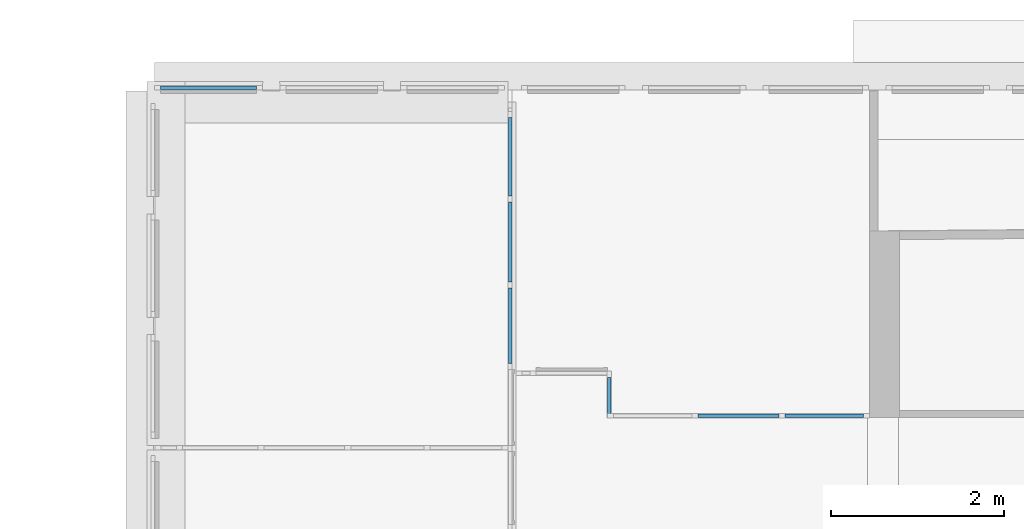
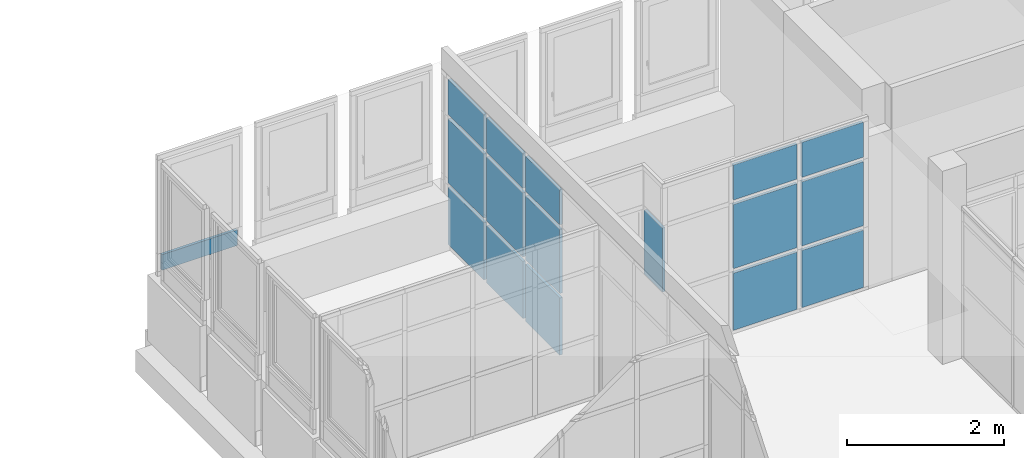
# One storey, part 32 of 97: 17 plates, 4 elements without a shape of their own.
"""IFC4 building model written with IfcOpenShell, lengths in metres."""

from ifc_helpers import new_model, entity, si_unit, converted_unit, derived_unit, direction, frame, origin, place, context, subcontext, project, spatial, indexed_curve, outline, extrude, shape, source, transform, mapped, material, layer, layer_set, type_object, type_shapes, element, aggregate, save


model = new_model("IFC4")

# Units and contexts
model_context = context("Model", 3, precision=1e-05, world=origin(), true_north=direction((6.12303176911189e-17, 1.0)))
body_context = subcontext(model_context, "Body", "Model", "MODEL_VIEW")
footprint_context = subcontext(model_context, "FootPrint", "Model", "MODEL_VIEW")
ifc_project = project(units=[si_unit("LENGTHUNIT", "METRE"), si_unit("AREAUNIT", "SQUARE_METRE"), si_unit("VOLUMEUNIT", "CUBIC_METRE"), converted_unit("PLANEANGLEUNIT", "DEGREE", entity("IfcRatioMeasure", 0.0174532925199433), si_unit("PLANEANGLEUNIT", "RADIAN"), dimensions=[0, 0, 0, 0, 0, 0, 0]), si_unit("MASSUNIT", "GRAM", prefix="KILO"), derived_unit("MASSDENSITYUNIT", [(si_unit("MASSUNIT", "GRAM", prefix="KILO"), 1), (si_unit("LENGTHUNIT", "METRE"), -3)]), derived_unit("MOMENTOFINERTIAUNIT", [(si_unit("LENGTHUNIT", "METRE"), 4)]), si_unit("TIMEUNIT", "SECOND"), si_unit("FREQUENCYUNIT", "HERTZ"), si_unit("THERMODYNAMICTEMPERATUREUNIT", "DEGREE_CELSIUS"), derived_unit("THERMALTRANSMITTANCEUNIT", [(si_unit("MASSUNIT", "GRAM", prefix="KILO"), 1), (si_unit("THERMODYNAMICTEMPERATUREUNIT", "KELVIN"), -1), (si_unit("TIMEUNIT", "SECOND"), -3)]), derived_unit("VOLUMETRICFLOWRATEUNIT", [(si_unit("LENGTHUNIT", "METRE"), 3), (si_unit("TIMEUNIT", "SECOND"), -1)]), si_unit("ELECTRICCURRENTUNIT", "AMPERE"), si_unit("ELECTRICVOLTAGEUNIT", "VOLT"), si_unit("POWERUNIT", "WATT"), si_unit("FORCEUNIT", "NEWTON", prefix="KILO"), si_unit("ILLUMINANCEUNIT", "LUX"), si_unit("LUMINOUSFLUXUNIT", "LUMEN"), si_unit("LUMINOUSINTENSITYUNIT", "CANDELA"), derived_unit("USERDEFINED", [(si_unit("MASSUNIT", "GRAM", prefix="KILO"), -1), (si_unit("LENGTHUNIT", "METRE"), -2), (si_unit("TIMEUNIT", "SECOND"), 3), (si_unit("LUMINOUSFLUXUNIT", "LUMEN"), 1)]), derived_unit("LINEARVELOCITYUNIT", [(si_unit("LENGTHUNIT", "METRE"), 1), (si_unit("TIMEUNIT", "SECOND"), -1)]), si_unit("PRESSUREUNIT", "PASCAL"), derived_unit("USERDEFINED", [(si_unit("LENGTHUNIT", "METRE"), -2), (si_unit("MASSUNIT", "GRAM", prefix="KILO"), 1), (si_unit("TIMEUNIT", "SECOND"), -2)]), derived_unit("LINEARFORCEUNIT", [(si_unit("MASSUNIT", "GRAM", prefix="KILO"), 1), (si_unit("LENGTHUNIT", "METRE"), 1), (si_unit("TIMEUNIT", "SECOND"), -2), (si_unit("LENGTHUNIT", "METRE"), -1)]), derived_unit("PLANARFORCEUNIT", [(si_unit("MASSUNIT", "GRAM", prefix="KILO"), 1), (si_unit("LENGTHUNIT", "METRE"), 1), (si_unit("TIMEUNIT", "SECOND"), -2), (si_unit("LENGTHUNIT", "METRE"), -2)])], contexts=[model_context])

# Site, building, storey
site_placement = place(None, origin())
site = spatial("IfcSite", under=ifc_project, at=site_placement, Name="Default", CompositionType="ELEMENT")
building_placement = place(site_placement, origin())
building = spatial("IfcBuilding", under=site, at=building_placement, Name="HOTEL CONSULAIRE BOULOGNE SUR MER", CompositionType="ELEMENT")
storey_placement = place(building_placement, frame((0.0, 0.0, 3.62152697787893)))
storey = spatial("IfcBuildingStorey", under=building, at=storey_placement, Name="Niveau 1", CompositionType="ELEMENT", Elevation=3.62152697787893)

# Curtain wall, plate
curtain_wall_type = type_object("IfcCurtainWallType", Name="Mur-rideau:Simple panneau", PredefinedType="NOTDEFINED")
curtain_wall_1_placement = place(storey_placement, frame((0.0, 0.0, -3.62152697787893)))
curtain_wall_1 = element("IfcCurtainWall", 1, at=curtain_wall_1_placement, inside=storey, type_object=curtain_wall_type, Name="Mur-rideau:Simple panneau", ObjectType="Mur-rideau:Simple panneau", PredefinedType="NOTDEFINED")
ifc_material = material(Name="Verre", Category="Verre")
ifc_layer_1 = layer(ifc_material, 0.04, Name="Verre", Category="Verre")
ifc_layer_set_1 = layer_set([ifc_layer_1], Name="Mur-rideau:Simple panneau")
plate_type_1 = type_object("IfcPlateType", Name="Panneau système:Vitré", PredefinedType="CURTAIN_PANEL", material=ifc_layer_set_1)
shared_shape_1 = source(origin(), body_context, "Body", "SweptSolid", [
    extrude(outline(indexed_curve([(-0.02, -0.556280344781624), (0.02, -0.556280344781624), (0.02, 0.556280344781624), (-0.02, 0.556280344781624), (-0.02, -0.556280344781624)], self_intersect=False)), frame((0.556280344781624, 0.02, 0.0), z_axis=(0.0, 0.0, 1.0), x_axis=(0.0, 1.0, 0.0)), (0.0, 0.0, 1.0), 0.243),
])
shared_shape_2 = source(frame((-0.556280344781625, 0.00500000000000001, 0.0)), footprint_context, "FootPrint", "Curve2D", [
    entity("IfcIndexedPolyCurve", entity("IfcCartesianPointList2D", [[0.725834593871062, 0.003476], [0.725834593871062, 0.043476], [-0.386726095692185, 0.043476], [-0.386726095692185, 0.003476], [0.725834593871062, 0.003476]]), None, False),
])
type_shapes(plate_type_1, [shared_shape_1, shared_shape_2])
plate_1_placement = place(curtain_wall_1_placement, frame((-13.7239806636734, -10.0696323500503, 4.48313951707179)))
plate_1 = element("IfcPlate", 2, at=plate_1_placement, type_object=plate_type_1, material=ifc_layer_set_1, Name="Panneau système:Vitré", ObjectType="Panneau système:Vitré", PredefinedType="CURTAIN_PANEL", shapes=[
    shape(body_context, "Body", "MappedRepresentation", [mapped(shared_shape_1, transform((0.0, 0.0, 0.0), scale=1.0))]),
    shape(body_context, "Body", "MappedRepresentation", [mapped(shared_shape_2, transform((0.0, 0.0, 0.0), scale=1.0))]),
])
aggregate(curtain_wall_1, [plate_1])

# Curtain wall, plates
curtain_wall_2_placement = place(storey_placement, frame((0.0, 0.0, -3.62152697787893)))
curtain_wall_2 = element("IfcCurtainWall", 3, at=curtain_wall_2_placement, inside=storey, type_object=curtain_wall_type, Name="Mur-rideau:Simple panneau", ObjectType="Mur-rideau:Simple panneau", PredefinedType="NOTDEFINED")
ifc_layer_2 = layer(ifc_material, 0.04, Name="Verre", Category="Verre")
ifc_layer_set_2 = layer_set([ifc_layer_2], Name="Mur-rideau:Simple panneau")
plate_type_2 = type_object("IfcPlateType", Name="Panneau système:Plein", PredefinedType="CURTAIN_PANEL", material=ifc_layer_set_2)
shared_shape_3 = source(origin(), body_context, "Body", "SweptSolid", [
    extrude(outline(indexed_curve([(-0.02, -0.435322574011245), (0.02, -0.435322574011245), (0.02, 0.435322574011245), (-0.02, 0.435322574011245), (-0.02, -0.435322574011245)], self_intersect=False)), frame((0.435322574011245, 0.02, 0.0), z_axis=(0.0, 0.0, 1.0), x_axis=(0.0, 1.0, 0.0)), (0.0, 0.0, 1.0), 0.891960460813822),
])
shared_shape_4 = source(frame((-0.435322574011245, 0.00499999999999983, 0.0)), footprint_context, "FootPrint", "Curve2D", [
    entity("IfcIndexedPolyCurve", entity("IfcCartesianPointList2D", [[0.568008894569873, 0.00347599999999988], [0.568008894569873, 0.0434759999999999], [-0.302636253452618, 0.0434759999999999], [-0.302636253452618, 0.00347599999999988], [0.568008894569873, 0.00347599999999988]]), None, False),
])
type_shapes(plate_type_2, [shared_shape_3, shared_shape_4])
plate_2_placement = place(curtain_wall_2_placement, frame((-9.65462464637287, -13.2422596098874, 3.67152697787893), z_axis=(0.0, 0.0, 1.0), x_axis=(0.0, 1.0, 0.0)))
plate_2 = element("IfcPlate", 4, at=plate_2_placement, type_object=plate_type_2, material=ifc_layer_set_2, Name="Panneau système:Plein", ObjectType="Panneau système:Plein", PredefinedType="CURTAIN_PANEL", shapes=[
    shape(body_context, "Body", "MappedRepresentation", [mapped(shared_shape_3, transform((0.0, 0.0, 0.0), scale=1.0))]),
    shape(body_context, "Body", "MappedRepresentation", [mapped(shared_shape_4, transform((0.0, 0.0, 0.0), scale=1.0))]),
])
plate_type_3 = type_object("IfcPlateType", Name="Panneau système:Plein", PredefinedType="CURTAIN_PANEL", material=ifc_layer_set_2)
shared_shape_5 = source(origin(), body_context, "Body", "SweptSolid", [
    extrude(outline(indexed_curve([(-0.02, -0.463145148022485), (0.02, -0.463145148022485), (0.02, 0.463145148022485), (-0.02, 0.463145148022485), (-0.02, -0.463145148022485)], self_intersect=False)), frame((0.463145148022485, 0.02, 0.0), z_axis=(0.0, 0.0, 1.0), x_axis=(0.0, 1.0, 0.0)), (0.0, 0.0, 1.0), 0.891960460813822),
])
shared_shape_6 = source(frame((-0.463145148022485, 0.00500000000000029, 0.0)), footprint_context, "FootPrint", "Curve2D", [
    entity("IfcIndexedPolyCurve", entity("IfcCartesianPointList2D", [[0.604311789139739, 0.0034760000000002], [0.604311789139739, 0.0434760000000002], [-0.321978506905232, 0.0434760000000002], [-0.321978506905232, 0.0034760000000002], [0.604311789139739, 0.0034760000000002]]), None, False),
])
type_shapes(plate_type_3, [shared_shape_5, shared_shape_6])
plate_3_placement = place(curtain_wall_2_placement, frame((-9.65462464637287, -12.3016144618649, 3.67152697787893), z_axis=(0.0, 0.0, 1.0), x_axis=(0.0, 1.0, 0.0)))
plate_3 = element("IfcPlate", 5, at=plate_3_placement, type_object=plate_type_3, material=ifc_layer_set_2, Name="Panneau système:Plein", ObjectType="Panneau système:Plein", PredefinedType="CURTAIN_PANEL", shapes=[
    shape(body_context, "Body", "MappedRepresentation", [mapped(shared_shape_5, transform((0.0, 0.0, 0.0), scale=1.0))]),
    shape(body_context, "Body", "MappedRepresentation", [mapped(shared_shape_6, transform((0.0, 0.0, 0.0), scale=1.0))]),
])
plate_type_4 = type_object("IfcPlateType", Name="Panneau système:Plein", PredefinedType="CURTAIN_PANEL", material=ifc_layer_set_2)
shared_shape_7 = source(origin(), body_context, "Body", "SweptSolid", [
    extrude(outline(indexed_curve([(-0.02, -0.456345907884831), (0.02, -0.456345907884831), (0.02, 0.456345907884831), (-0.02, 0.456345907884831), (-0.02, -0.456345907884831)], self_intersect=False)), frame((0.456345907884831, 0.02, 0.0), z_axis=(0.0, 0.0, 1.0), x_axis=(0.0, 1.0, 0.0)), (0.0, 0.0, 1.0), 0.891960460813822),
])
shared_shape_8 = source(frame((-0.456345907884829, 0.00499999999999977, 0.0)), footprint_context, "FootPrint", "Curve2D", [
    entity("IfcIndexedPolyCurve", entity("IfcCartesianPointList2D", [[0.595440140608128, 0.00347599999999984], [0.595440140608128, 0.0434759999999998], [-0.317251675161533, 0.0434759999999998], [-0.317251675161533, 0.00347599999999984], [0.595440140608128, 0.00347599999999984]]), None, False),
])
type_shapes(plate_type_4, [shared_shape_7, shared_shape_8])
plate_4_placement = place(curtain_wall_2_placement, frame((-9.65462464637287, -11.3053241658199, 3.67152697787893), z_axis=(0.0, 0.0, 1.0), x_axis=(0.0, 1.0, 0.0)))
plate_4 = element("IfcPlate", 6, at=plate_4_placement, type_object=plate_type_4, material=ifc_layer_set_2, Name="Panneau système:Plein", ObjectType="Panneau système:Plein", PredefinedType="CURTAIN_PANEL", shapes=[
    shape(body_context, "Body", "MappedRepresentation", [mapped(shared_shape_7, transform((0.0, 0.0, 0.0), scale=1.0))]),
    shape(body_context, "Body", "MappedRepresentation", [mapped(shared_shape_8, transform((0.0, 0.0, 0.0), scale=1.0))]),
])
plate_type_5 = type_object("IfcPlateType", Name="Panneau système:Vitré", PredefinedType="CURTAIN_PANEL", material=ifc_layer_set_1)
shared_shape_9 = source(origin(), body_context, "Body", "SweptSolid", [
    extrude(outline(indexed_curve([(-0.356333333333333, -0.435322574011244), (-0.286333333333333, -0.435322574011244), (0.642666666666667, -0.435322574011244), (0.642666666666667, 0.435322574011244), (-0.286333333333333, 0.435322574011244), (-0.356333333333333, 0.435322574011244), (-0.356333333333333, -0.435322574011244)], self_intersect=False)), frame((0.435322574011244, 0.0, 0.356333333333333), z_axis=(0.0, 1.0, 0.0), x_axis=(0.0, 0.0, 1.0)), (0.0, 0.0, 1.0), 0.04),
])
shared_shape_10 = source(frame((-0.435322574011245, 0.00499999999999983, 0.0)), footprint_context, "FootPrint", "Curve2D", [
    entity("IfcIndexedPolyCurve", entity("IfcCartesianPointList2D", [[-0.302636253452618, 0.00347599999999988], [-0.302636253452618, 0.00347599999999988], [-0.302636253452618, 0.00347599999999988], [0.56800889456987, 0.00347599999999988], [0.56800889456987, 0.00347599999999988], [0.56800889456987, 0.00347599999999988], [-0.302636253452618, 0.00347599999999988]]), None, False),
])
type_shapes(plate_type_5, [shared_shape_9, shared_shape_10])
plate_5_placement = place(curtain_wall_2_placement, frame((-9.65462464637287, -13.2422596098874, 4.63348743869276), z_axis=(0.0, 0.0, 1.0), x_axis=(0.0, 1.0, 0.0)))
plate_5 = element("IfcPlate", 7, at=plate_5_placement, type_object=plate_type_5, material=ifc_layer_set_1, Name="Panneau système:Vitré", ObjectType="Panneau système:Vitré", PredefinedType="CURTAIN_PANEL", shapes=[
    shape(body_context, "Body", "MappedRepresentation", [mapped(shared_shape_9, transform((0.0, 0.0, 0.0), scale=1.0))]),
    shape(body_context, "Body", "MappedRepresentation", [mapped(shared_shape_10, transform((0.0, 0.0, 0.0), scale=1.0))]),
])
plate_type_6 = type_object("IfcPlateType", Name="Panneau système:Vitré", PredefinedType="CURTAIN_PANEL", material=ifc_layer_set_1)
shared_shape_11 = source(origin(), body_context, "Body", "SweptSolid", [
    extrude(outline(indexed_curve([(-0.356333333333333, -0.463145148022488), (-0.286333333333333, -0.463145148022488), (0.642666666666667, -0.463145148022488), (0.642666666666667, 0.463145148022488), (-0.286333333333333, 0.463145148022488), (-0.356333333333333, 0.463145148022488), (-0.356333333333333, -0.463145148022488)], self_intersect=False)), frame((0.463145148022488, 0.0, 0.356333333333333), z_axis=(0.0, 1.0, 0.0), x_axis=(0.0, 0.0, 1.0)), (0.0, 0.0, 1.0), 0.04),
])
shared_shape_12 = source(frame((-0.463145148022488, 0.00500000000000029, 0.0)), footprint_context, "FootPrint", "Curve2D", [
    entity("IfcIndexedPolyCurve", entity("IfcCartesianPointList2D", [[-0.321978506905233, 0.0034760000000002], [-0.321978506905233, 0.0034760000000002], [-0.321978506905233, 0.0034760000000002], [0.604311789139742, 0.0034760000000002], [0.604311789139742, 0.0034760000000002], [0.604311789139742, 0.0034760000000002], [-0.321978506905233, 0.0034760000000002]]), None, False),
])
type_shapes(plate_type_6, [shared_shape_11, shared_shape_12])
plate_6_placement = place(curtain_wall_2_placement, frame((-9.65462464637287, -12.3016144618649, 4.63348743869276), z_axis=(0.0, 0.0, 1.0), x_axis=(0.0, 1.0, 0.0)))
plate_6 = element("IfcPlate", 8, at=plate_6_placement, type_object=plate_type_6, material=ifc_layer_set_1, Name="Panneau système:Vitré", ObjectType="Panneau système:Vitré", PredefinedType="CURTAIN_PANEL", shapes=[
    shape(body_context, "Body", "MappedRepresentation", [mapped(shared_shape_11, transform((0.0, 0.0, 0.0), scale=1.0))]),
    shape(body_context, "Body", "MappedRepresentation", [mapped(shared_shape_12, transform((0.0, 0.0, 0.0), scale=1.0))]),
])
plate_type_7 = type_object("IfcPlateType", Name="Panneau système:Vitré", PredefinedType="CURTAIN_PANEL", material=ifc_layer_set_1)
shared_shape_13 = source(origin(), body_context, "Body", "SweptSolid", [
    extrude(outline(indexed_curve([(-0.356333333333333, -0.456345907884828), (-0.286333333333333, -0.456345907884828), (0.642666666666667, -0.456345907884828), (0.642666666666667, 0.456345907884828), (-0.286333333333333, 0.456345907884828), (-0.356333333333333, 0.456345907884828), (-0.356333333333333, -0.456345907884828)], self_intersect=False)), frame((0.456345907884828, 0.0, 0.356333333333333), z_axis=(0.0, 1.0, 0.0), x_axis=(0.0, 0.0, 1.0)), (0.0, 0.0, 1.0), 0.04),
])
shared_shape_14 = source(frame((-0.456345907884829, 0.00499999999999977, 0.0)), footprint_context, "FootPrint", "Curve2D", [
    entity("IfcIndexedPolyCurve", entity("IfcCartesianPointList2D", [[-0.317251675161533, 0.00347599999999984], [-0.317251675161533, 0.00347599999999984], [-0.317251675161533, 0.00347599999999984], [0.595440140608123, 0.00347599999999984], [0.595440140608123, 0.00347599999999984], [0.595440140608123, 0.00347599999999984], [-0.317251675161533, 0.00347599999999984]]), None, False),
])
type_shapes(plate_type_7, [shared_shape_13, shared_shape_14])
plate_7_placement = place(curtain_wall_2_placement, frame((-9.65462464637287, -11.3053241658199, 4.63348743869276), z_axis=(0.0, 0.0, 1.0), x_axis=(0.0, 1.0, 0.0)))
plate_7 = element("IfcPlate", 9, at=plate_7_placement, type_object=plate_type_7, material=ifc_layer_set_1, Name="Panneau système:Vitré", ObjectType="Panneau système:Vitré", PredefinedType="CURTAIN_PANEL", shapes=[
    shape(body_context, "Body", "MappedRepresentation", [mapped(shared_shape_13, transform((0.0, 0.0, 0.0), scale=1.0))]),
    shape(body_context, "Body", "MappedRepresentation", [mapped(shared_shape_14, transform((0.0, 0.0, 0.0), scale=1.0))]),
])
plate_type_8 = type_object("IfcPlateType", Name="Panneau système:Vitré", PredefinedType="CURTAIN_PANEL", material=ifc_layer_set_1)
shared_shape_15 = source(origin(), body_context, "Body", "SweptSolid", [
    extrude(outline(indexed_curve([(-0.02, -0.435322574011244), (0.02, -0.435322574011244), (0.02, 0.435322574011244), (-0.02, 0.435322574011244), (-0.02, -0.435322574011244)], self_intersect=False)), frame((0.435322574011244, 0.02, 0.0), z_axis=(0.0, 0.0, 1.0), x_axis=(0.0, 1.0, 0.0)), (0.0, 0.0, 1.0), 0.546),
])
shared_shape_16 = source(frame((-0.435322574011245, 0.00499999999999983, 0.0)), footprint_context, "FootPrint", "Curve2D", [
    entity("IfcIndexedPolyCurve", entity("IfcCartesianPointList2D", [[0.56800889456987, 0.00347599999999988], [0.56800889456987, 0.0434759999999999], [-0.302636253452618, 0.0434759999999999], [-0.302636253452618, 0.00347599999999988], [0.56800889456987, 0.00347599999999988]]), None, False),
])
type_shapes(plate_type_8, [shared_shape_15, shared_shape_16])
plate_8_placement = place(curtain_wall_2_placement, frame((-9.65462464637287, -13.2422596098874, 5.70248743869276), z_axis=(0.0, 0.0, 1.0), x_axis=(0.0, 1.0, 0.0)))
plate_8 = element("IfcPlate", 10, at=plate_8_placement, type_object=plate_type_8, material=ifc_layer_set_1, Name="Panneau système:Vitré", ObjectType="Panneau système:Vitré", PredefinedType="CURTAIN_PANEL", shapes=[
    shape(body_context, "Body", "MappedRepresentation", [mapped(shared_shape_15, transform((0.0, 0.0, 0.0), scale=1.0))]),
    shape(body_context, "Body", "MappedRepresentation", [mapped(shared_shape_16, transform((0.0, 0.0, 0.0), scale=1.0))]),
])
plate_type_9 = type_object("IfcPlateType", Name="Panneau système:Vitré", PredefinedType="CURTAIN_PANEL", material=ifc_layer_set_1)
shared_shape_17 = source(origin(), body_context, "Body", "SweptSolid", [
    extrude(outline(indexed_curve([(-0.02, -0.463145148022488), (0.02, -0.463145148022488), (0.02, 0.463145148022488), (-0.02, 0.463145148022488), (-0.02, -0.463145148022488)], self_intersect=False)), frame((0.463145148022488, 0.02, 0.0), z_axis=(0.0, 0.0, 1.0), x_axis=(0.0, 1.0, 0.0)), (0.0, 0.0, 1.0), 0.546),
])
shared_shape_18 = source(frame((-0.463145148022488, 0.00500000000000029, 0.0)), footprint_context, "FootPrint", "Curve2D", [
    entity("IfcIndexedPolyCurve", entity("IfcCartesianPointList2D", [[0.604311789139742, 0.0034760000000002], [0.604311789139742, 0.0434760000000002], [-0.321978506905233, 0.0434760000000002], [-0.321978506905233, 0.0034760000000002], [0.604311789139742, 0.0034760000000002]]), None, False),
])
type_shapes(plate_type_9, [shared_shape_17, shared_shape_18])
plate_9_placement = place(curtain_wall_2_placement, frame((-9.65462464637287, -12.3016144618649, 5.70248743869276), z_axis=(0.0, 0.0, 1.0), x_axis=(0.0, 1.0, 0.0)))
plate_9 = element("IfcPlate", 11, at=plate_9_placement, type_object=plate_type_9, material=ifc_layer_set_1, Name="Panneau système:Vitré", ObjectType="Panneau système:Vitré", PredefinedType="CURTAIN_PANEL", shapes=[
    shape(body_context, "Body", "MappedRepresentation", [mapped(shared_shape_17, transform((0.0, 0.0, 0.0), scale=1.0))]),
    shape(body_context, "Body", "MappedRepresentation", [mapped(shared_shape_18, transform((0.0, 0.0, 0.0), scale=1.0))]),
])
plate_type_10 = type_object("IfcPlateType", Name="Panneau système:Vitré", PredefinedType="CURTAIN_PANEL", material=ifc_layer_set_1)
shared_shape_19 = source(origin(), body_context, "Body", "SweptSolid", [
    extrude(outline(indexed_curve([(-0.02, -0.456345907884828), (0.02, -0.456345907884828), (0.02, 0.456345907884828), (-0.02, 0.456345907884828), (-0.02, -0.456345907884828)], self_intersect=False)), frame((0.45634590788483, 0.02, 0.0), z_axis=(0.0, 0.0, 1.0), x_axis=(0.0, 1.0, 0.0)), (0.0, 0.0, 1.0), 0.546),
])
shared_shape_20 = source(frame((-0.456345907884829, 0.00499999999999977, 0.0)), footprint_context, "FootPrint", "Curve2D", [
    entity("IfcIndexedPolyCurve", entity("IfcCartesianPointList2D", [[0.595440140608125, 0.00347599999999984], [0.595440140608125, 0.0434759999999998], [-0.317251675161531, 0.0434759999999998], [-0.317251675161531, 0.00347599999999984], [0.595440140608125, 0.00347599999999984]]), None, False),
])
type_shapes(plate_type_10, [shared_shape_19, shared_shape_20])
plate_10_placement = place(curtain_wall_2_placement, frame((-9.65462464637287, -11.3053241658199, 5.70248743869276), z_axis=(0.0, 0.0, 1.0), x_axis=(0.0, 1.0, 0.0)))
plate_10 = element("IfcPlate", 12, at=plate_10_placement, type_object=plate_type_10, material=ifc_layer_set_1, Name="Panneau système:Vitré", ObjectType="Panneau système:Vitré", PredefinedType="CURTAIN_PANEL", shapes=[
    shape(body_context, "Body", "MappedRepresentation", [mapped(shared_shape_19, transform((0.0, 0.0, 0.0), scale=1.0))]),
    shape(body_context, "Body", "MappedRepresentation", [mapped(shared_shape_20, transform((0.0, 0.0, 0.0), scale=1.0))]),
])
aggregate(curtain_wall_2, [plate_2, plate_3, plate_4, plate_5, plate_6, plate_7, plate_8, plate_9, plate_10])

curtain_wall_3_placement = place(storey_placement, frame((0.0, 0.0, -3.62152697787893)))
curtain_wall_3 = element("IfcCurtainWall", 13, at=curtain_wall_3_placement, inside=storey, type_object=curtain_wall_type, Name="Mur-rideau:Simple panneau", ObjectType="Mur-rideau:Simple panneau", PredefinedType="NOTDEFINED")
plate_type_11 = type_object("IfcPlateType", Name="Panneau système:Plein", PredefinedType="CURTAIN_PANEL", material=ifc_layer_set_2)
shared_shape_21 = source(origin(), body_context, "Body", "SweptSolid", [
    extrude(outline(indexed_curve([(-0.0199999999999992, -0.453199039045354), (0.0200000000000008, -0.453199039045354), (0.0199999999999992, 0.453199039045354), (-0.0200000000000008, 0.453199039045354), (-0.0199999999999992, -0.453199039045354)], self_intersect=False)), frame((0.453199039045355, 0.02, 0.0), z_axis=(0.0, 0.0, 1.0), x_axis=(0.0, 1.0, 0.0)), (0.0, 0.0, 1.0), 0.892),
])
shared_shape_22 = source(frame((-0.453199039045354, 0.00500000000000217, 0.0)), footprint_context, "FootPrint", "Curve2D", [
    entity("IfcIndexedPolyCurve", entity("IfcCartesianPointList2D", [[0.591334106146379, 0.00347600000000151], [0.591334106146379, 0.0434760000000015], [-0.315063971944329, 0.0434760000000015], [-0.315063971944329, 0.00347600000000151], [0.591334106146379, 0.00347600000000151]]), None, False),
])
type_shapes(plate_type_11, [shared_shape_21, shared_shape_22])
plate_11_placement = place(curtain_wall_3_placement, frame((-5.5797731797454, -13.8309141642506, 3.67152697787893), z_axis=(0.0, 0.0, 1.0), x_axis=(-1.0, 0.0, 0.0)))
plate_11 = element("IfcPlate", 14, at=plate_11_placement, type_object=plate_type_11, material=ifc_layer_set_2, Name="Panneau système:Plein", ObjectType="Panneau système:Plein", PredefinedType="CURTAIN_PANEL", shapes=[
    shape(body_context, "Body", "MappedRepresentation", [mapped(shared_shape_21, transform((0.0, 0.0, 0.0), scale=1.0))]),
    shape(body_context, "Body", "MappedRepresentation", [mapped(shared_shape_22, transform((0.0, 0.0, 0.0), scale=1.0))]),
])
plate_type_12 = type_object("IfcPlateType", Name="Panneau système:Plein", PredefinedType="CURTAIN_PANEL", material=ifc_layer_set_2)
shared_shape_23 = source(origin(), body_context, "Body", "SweptSolid", [
    extrude(outline(indexed_curve([(-0.02, -0.470699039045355), (0.02, -0.470699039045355), (0.02, 0.470699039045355), (-0.02, 0.470699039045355), (-0.02, -0.470699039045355)], self_intersect=False)), frame((0.470699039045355, 0.02, 0.0), z_axis=(0.0, 0.0, 1.0), x_axis=(0.0, 1.0, 0.0)), (0.0, 0.0, 1.0), 0.892),
])
shared_shape_24 = source(frame((-0.470699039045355, 0.00499999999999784, 0.0)), footprint_context, "FootPrint", "Curve2D", [
    entity("IfcIndexedPolyCurve", entity("IfcCartesianPointList2D", [[0.614168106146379, 0.0034759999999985], [0.614168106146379, 0.0434759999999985], [-0.327229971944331, 0.0434759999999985], [-0.327229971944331, 0.0034759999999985], [0.614168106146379, 0.0034759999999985]]), None, False),
])
type_shapes(plate_type_12, [shared_shape_23, shared_shape_24])
plate_12_placement = place(curtain_wall_3_placement, frame((-6.5561712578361, -13.8309141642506, 3.67152697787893), z_axis=(0.0, 0.0, 1.0), x_axis=(-1.0, 0.0, 0.0)))
plate_12 = element("IfcPlate", 15, at=plate_12_placement, type_object=plate_type_12, material=ifc_layer_set_2, Name="Panneau système:Plein", ObjectType="Panneau système:Plein", PredefinedType="CURTAIN_PANEL", shapes=[
    shape(body_context, "Body", "MappedRepresentation", [mapped(shared_shape_23, transform((0.0, 0.0, 0.0), scale=1.0))]),
    shape(body_context, "Body", "MappedRepresentation", [mapped(shared_shape_24, transform((0.0, 0.0, 0.0), scale=1.0))]),
])
plate_type_13 = type_object("IfcPlateType", Name="Panneau système:Vitré", PredefinedType="CURTAIN_PANEL", material=ifc_layer_set_1)
shared_shape_25 = source(origin(), body_context, "Body", "SweptSolid", [
    extrude(outline(indexed_curve([(-0.02, -0.453199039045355), (0.02, -0.453199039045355), (0.02, 0.453199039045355), (-0.02, 0.453199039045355), (-0.02, -0.453199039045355)], self_intersect=False)), frame((0.453199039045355, 0.02, 0.0), z_axis=(0.0, 0.0, 1.0), x_axis=(0.0, 1.0, 0.0)), (0.0, 0.0, 1.0), 0.998960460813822),
])
shared_shape_26 = source(frame((-0.453199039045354, 0.00500000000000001, 0.0)), footprint_context, "FootPrint", "Curve2D", [
    entity("IfcIndexedPolyCurve", entity("IfcCartesianPointList2D", [[0.591334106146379, 0.003476], [0.591334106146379, 0.043476], [-0.31506397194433, 0.043476], [-0.31506397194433, 0.003476], [0.591334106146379, 0.003476]]), None, False),
])
type_shapes(plate_type_13, [shared_shape_25, shared_shape_26])
plate_13_placement = place(curtain_wall_3_placement, frame((-5.5797731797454, -13.8309141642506, 4.63352697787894), z_axis=(0.0, 0.0, 1.0), x_axis=(-1.0, 0.0, 0.0)))
plate_13 = element("IfcPlate", 16, at=plate_13_placement, type_object=plate_type_13, material=ifc_layer_set_1, Name="Panneau système:Vitré", ObjectType="Panneau système:Vitré", PredefinedType="CURTAIN_PANEL", shapes=[
    shape(body_context, "Body", "MappedRepresentation", [mapped(shared_shape_25, transform((0.0, 0.0, 0.0), scale=1.0))]),
    shape(body_context, "Body", "MappedRepresentation", [mapped(shared_shape_26, transform((0.0, 0.0, 0.0), scale=1.0))]),
])
plate_type_14 = type_object("IfcPlateType", Name="Panneau système:Vitré", PredefinedType="CURTAIN_PANEL", material=ifc_layer_set_1)
shared_shape_27 = source(origin(), body_context, "Body", "SweptSolid", [
    extrude(outline(indexed_curve([(-0.02, -0.470699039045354), (0.02, -0.470699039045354), (0.02, 0.470699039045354), (-0.02, 0.470699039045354), (-0.02, -0.470699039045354)], self_intersect=False)), frame((0.470699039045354, 0.02, 0.0), z_axis=(0.0, 0.0, 1.0), x_axis=(0.0, 1.0, 0.0)), (0.0, 0.0, 1.0), 0.998960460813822),
])
shared_shape_28 = source(frame((-0.470699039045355, 0.00499999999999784, 0.0)), footprint_context, "FootPrint", "Curve2D", [
    entity("IfcIndexedPolyCurve", entity("IfcCartesianPointList2D", [[0.614168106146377, 0.0034759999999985], [0.614168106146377, 0.0434759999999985], [-0.327229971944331, 0.0434759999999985], [-0.327229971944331, 0.0034759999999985], [0.614168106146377, 0.0034759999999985]]), None, False),
])
type_shapes(plate_type_14, [shared_shape_27, shared_shape_28])
plate_14_placement = place(curtain_wall_3_placement, frame((-6.5561712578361, -13.8309141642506, 4.63352697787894), z_axis=(0.0, 0.0, 1.0), x_axis=(-1.0, 0.0, 0.0)))
plate_14 = element("IfcPlate", 17, at=plate_14_placement, type_object=plate_type_14, material=ifc_layer_set_1, Name="Panneau système:Vitré", ObjectType="Panneau système:Vitré", PredefinedType="CURTAIN_PANEL", shapes=[
    shape(body_context, "Body", "MappedRepresentation", [mapped(shared_shape_27, transform((0.0, 0.0, 0.0), scale=1.0))]),
    shape(body_context, "Body", "MappedRepresentation", [mapped(shared_shape_28, transform((0.0, 0.0, 0.0), scale=1.0))]),
])
plate_type_15 = type_object("IfcPlateType", Name="Panneau système:Vitré", PredefinedType="CURTAIN_PANEL", material=ifc_layer_set_1)
shared_shape_29 = source(origin(), body_context, "Body", "SweptSolid", [
    extrude(outline(indexed_curve([(-0.02, -0.453199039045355), (0.02, -0.453199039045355), (0.02, 0.453199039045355), (-0.02, 0.453199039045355), (-0.02, -0.453199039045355)], self_intersect=False)), frame((0.453199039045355, 0.02, 0.0), z_axis=(0.0, 0.0, 1.0), x_axis=(0.0, 1.0, 0.0)), (0.0, 0.0, 1.0), 0.546),
])
shared_shape_30 = source(frame((-0.453199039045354, 0.00500000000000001, 0.0)), footprint_context, "FootPrint", "Curve2D", [
    entity("IfcIndexedPolyCurve", entity("IfcCartesianPointList2D", [[0.591334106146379, 0.003476], [0.591334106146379, 0.043476], [-0.31506397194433, 0.043476], [-0.31506397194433, 0.003476], [0.591334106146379, 0.003476]]), None, False),
])
type_shapes(plate_type_15, [shared_shape_29, shared_shape_30])
plate_15_placement = place(curtain_wall_3_placement, frame((-5.5797731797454, -13.8309141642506, 5.70248743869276), z_axis=(0.0, 0.0, 1.0), x_axis=(-1.0, 0.0, 0.0)))
plate_15 = element("IfcPlate", 18, at=plate_15_placement, type_object=plate_type_15, material=ifc_layer_set_1, Name="Panneau système:Vitré", ObjectType="Panneau système:Vitré", PredefinedType="CURTAIN_PANEL", shapes=[
    shape(body_context, "Body", "MappedRepresentation", [mapped(shared_shape_29, transform((0.0, 0.0, 0.0), scale=1.0))]),
    shape(body_context, "Body", "MappedRepresentation", [mapped(shared_shape_30, transform((0.0, 0.0, 0.0), scale=1.0))]),
])
plate_type_16 = type_object("IfcPlateType", Name="Panneau système:Vitré", PredefinedType="CURTAIN_PANEL", material=ifc_layer_set_1)
shared_shape_31 = source(origin(), body_context, "Body", "SweptSolid", [
    extrude(outline(indexed_curve([(-0.02, -0.470699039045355), (0.02, -0.470699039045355), (0.02, 0.470699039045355), (-0.02, 0.470699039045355), (-0.02, -0.470699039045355)], self_intersect=False)), frame((0.470699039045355, 0.02, 0.0), z_axis=(0.0, 0.0, 1.0), x_axis=(0.0, 1.0, 0.0)), (0.0, 0.0, 1.0), 0.546),
])
shared_shape_32 = source(frame((-0.470699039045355, 0.00499999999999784, 0.0)), footprint_context, "FootPrint", "Curve2D", [
    entity("IfcIndexedPolyCurve", entity("IfcCartesianPointList2D", [[0.614168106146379, 0.0034759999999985], [0.614168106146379, 0.0434759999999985], [-0.327229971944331, 0.0434759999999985], [-0.327229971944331, 0.0034759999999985], [0.614168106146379, 0.0034759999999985]]), None, False),
])
type_shapes(plate_type_16, [shared_shape_31, shared_shape_32])
plate_16_placement = place(curtain_wall_3_placement, frame((-6.5561712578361, -13.8309141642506, 5.70248743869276), z_axis=(0.0, 0.0, 1.0), x_axis=(-1.0, 0.0, 0.0)))
plate_16 = element("IfcPlate", 19, at=plate_16_placement, type_object=plate_type_16, material=ifc_layer_set_1, Name="Panneau système:Vitré", ObjectType="Panneau système:Vitré", PredefinedType="CURTAIN_PANEL", shapes=[
    shape(body_context, "Body", "MappedRepresentation", [mapped(shared_shape_31, transform((0.0, 0.0, 0.0), scale=1.0))]),
    shape(body_context, "Body", "MappedRepresentation", [mapped(shared_shape_32, transform((0.0, 0.0, 0.0), scale=1.0))]),
])
aggregate(curtain_wall_3, [plate_11, plate_12, plate_13, plate_14, plate_15, plate_16])

# Curtain wall, plate
curtain_wall_4_placement = place(storey_placement, frame((0.0, 0.0, -3.62152697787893)))
curtain_wall_4 = element("IfcCurtainWall", 20, at=curtain_wall_4_placement, inside=storey, type_object=curtain_wall_type, Name="Mur-rideau:Simple panneau", ObjectType="Mur-rideau:Simple panneau", PredefinedType="NOTDEFINED")
plate_type_17 = type_object("IfcPlateType", Name="Panneau système:Vitré", PredefinedType="CURTAIN_PANEL", material=ifc_layer_set_1)
shared_shape_33 = source(origin(), body_context, "Body", "SweptSolid", [
    extrude(outline(indexed_curve([(-0.02, -0.233181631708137), (0.02, -0.233181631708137), (0.02, 0.233181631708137), (-0.02, 0.233181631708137), (-0.02, -0.233181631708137)], self_intersect=False)), frame((0.233181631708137, 0.02, 0.0), z_axis=(0.0, 0.0, 1.0), x_axis=(0.0, 1.0, 0.0)), (0.0, 0.0, 1.0), 0.998960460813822),
])
shared_shape_34 = source(frame((-0.233181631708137, 0.00499999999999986, 0.0)), footprint_context, "FootPrint", "Curve2D", [
    entity("IfcIndexedPolyCurve", entity("IfcCartesianPointList2D", [[0.304255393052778, 0.0034759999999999], [0.304255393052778, 0.0434759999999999], [-0.162107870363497, 0.0434759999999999], [-0.162107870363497, 0.0034759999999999], [0.304255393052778, 0.0034759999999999]]), None, False),
])
type_shapes(plate_type_17, [shared_shape_33, shared_shape_34])
plate_17_placement = place(curtain_wall_4_placement, frame((-8.50396741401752, -13.8709141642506, 4.63352697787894), z_axis=(0.0, 0.0, 1.0), x_axis=(0.0, 1.0, 0.0)))
plate_17 = element("IfcPlate", 21, at=plate_17_placement, type_object=plate_type_17, material=ifc_layer_set_1, Name="Panneau système:Vitré", ObjectType="Panneau système:Vitré", PredefinedType="CURTAIN_PANEL", shapes=[
    shape(body_context, "Body", "MappedRepresentation", [mapped(shared_shape_33, transform((0.0, 0.0, 0.0), scale=1.0))]),
    shape(body_context, "Body", "MappedRepresentation", [mapped(shared_shape_34, transform((0.0, 0.0, 0.0), scale=1.0))]),
])
aggregate(curtain_wall_4, [plate_17])

save(model, "model.ifc")
